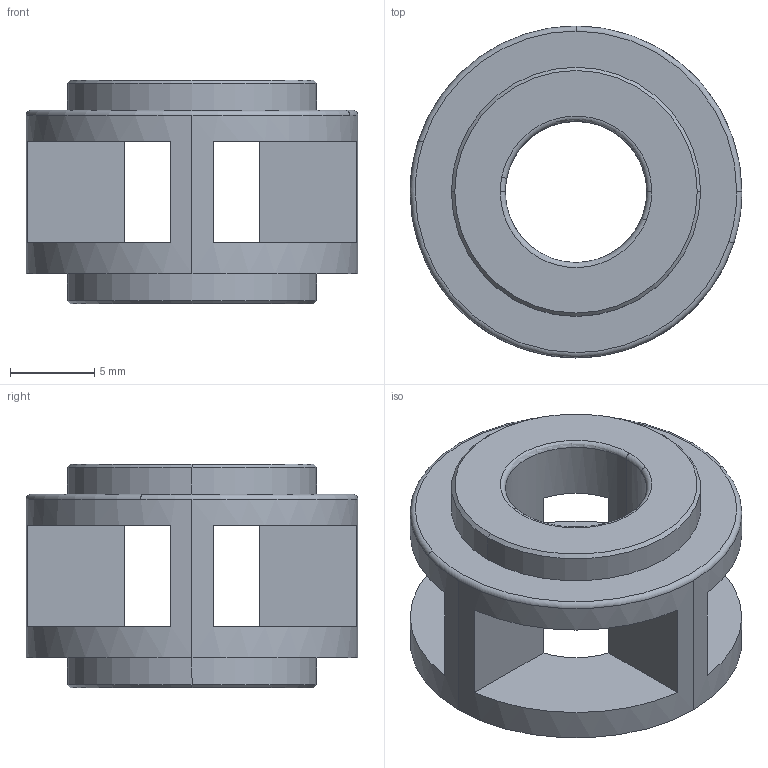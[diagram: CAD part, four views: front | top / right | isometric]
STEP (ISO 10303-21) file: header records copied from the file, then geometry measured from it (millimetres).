
FILE_DESCRIPTION(('CATIA V5 STEP Exchange'),'2;1');
FILE_NAME('F:\b.光华荣昌项目任务\3.0平台--H6\VDC阀\膜片式结构\气源密封支撑圈.stp','2021-07-05T06:15:02+00:00',('none'),('none'),'CATIA Version 5 Release 20 GA (IN-10)','CATIA V5 STEP AP214','none');
FILE_SCHEMA(('AUTOMOTIVE_DESIGN { 1 0 10303 214 1 1 1 1 }'));
Length unit declared in the file: millimetre
Products named in the file (1): BPC0010080
Bounding box: 19.7 x 19.7 x 13.3 mm (x, y, z)
Volume: 1679.7 mm3; surface area: 1844.7 mm2
Topology: 1 solids, 1 shells, 48 faces, 123 edges, 79 vertices
Faces by surface type: plane 20, cylinder 12, torus 12, cone 4
Entity records: 1440 total; most frequent: CARTESIAN_POINT 290, ORIENTED_EDGE 246, DIRECTION 191, EDGE_CURVE 123, AXIS2_PLACEMENT_3D 106, VERTEX_POINT 79, CIRCLE 68, EDGE_LOOP 60
